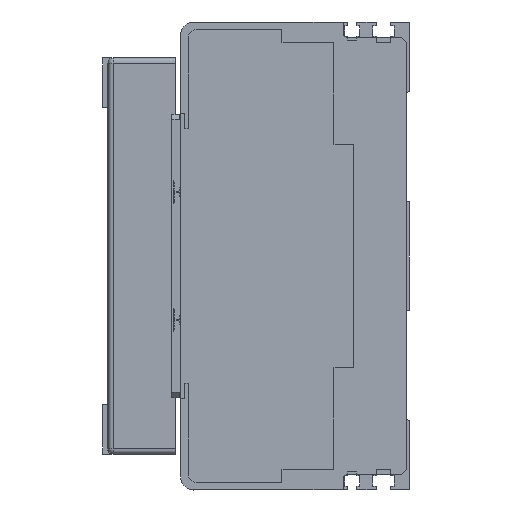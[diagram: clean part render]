
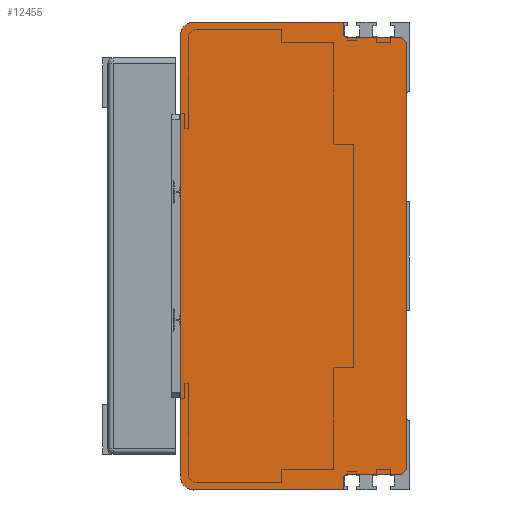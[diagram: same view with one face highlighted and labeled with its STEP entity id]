
A CAD part, left-side view. The second image highlights one B-rep face of the part: STEP entity #12455.
In plain terms, the highlighted planar face has unit normal (-1, 0, 0) as drawn and (0, 0, -1) by its records, which use the part's own axes.
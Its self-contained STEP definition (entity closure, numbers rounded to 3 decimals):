
#945=CIRCLE('',#13306,2.);
#946=CIRCLE('',#13307,5.);
#947=CIRCLE('',#13308,5.);
#948=CIRCLE('',#13309,2.);
#1252=FACE_OUTER_BOUND('',#2014,.T.);
#2014=EDGE_LOOP('',(#8458,#8459,#8460,#8461,#8462,#8463,#8464,#8465,#8466,
#8467,#8468,#8469,#8470,#8471));
#2901=LINE('',#17509,#4077);
#2902=LINE('',#17511,#4078);
#2903=LINE('',#17515,#4079);
#2904=LINE('',#17517,#4080);
#2905=LINE('',#17521,#4081);
#2906=LINE('',#17525,#4082);
#2907=LINE('',#17527,#4083);
#2908=LINE('',#17531,#4084);
#2909=LINE('',#17533,#4085);
#2910=LINE('',#17534,#4086);
#4077=VECTOR('',#14419,2.828);
#4078=VECTOR('',#14420,20.5);
#4079=VECTOR('',#14423,4.);
#4080=VECTOR('',#14424,57.5);
#4081=VECTOR('',#14427,170.);
#4082=VECTOR('',#14430,57.5);
#4083=VECTOR('',#14431,4.);
#4084=VECTOR('',#14434,20.5);
#4085=VECTOR('',#14435,2.828);
#4086=VECTOR('',#14436,164.);
#5285=VERTEX_POINT('',#17507);
#5286=VERTEX_POINT('',#17508);
#5287=VERTEX_POINT('',#17510);
#5288=VERTEX_POINT('',#17512);
#5289=VERTEX_POINT('',#17514);
#5290=VERTEX_POINT('',#17516);
#5291=VERTEX_POINT('',#17518);
#5292=VERTEX_POINT('',#17520);
#5293=VERTEX_POINT('',#17522);
#5294=VERTEX_POINT('',#17524);
#5295=VERTEX_POINT('',#17526);
#5296=VERTEX_POINT('',#17528);
#5297=VERTEX_POINT('',#17530);
#5298=VERTEX_POINT('',#17532);
#6558=EDGE_CURVE('',#5285,#5286,#2901,.T.);
#6559=EDGE_CURVE('',#5285,#5287,#2902,.T.);
#6560=EDGE_CURVE('',#5288,#5287,#945,.T.);
#6561=EDGE_CURVE('',#5288,#5289,#2903,.T.);
#6562=EDGE_CURVE('',#5289,#5290,#2904,.T.);
#6563=EDGE_CURVE('',#5290,#5291,#946,.T.);
#6564=EDGE_CURVE('',#5291,#5292,#2905,.T.);
#6565=EDGE_CURVE('',#5292,#5293,#947,.T.);
#6566=EDGE_CURVE('',#5293,#5294,#2906,.T.);
#6567=EDGE_CURVE('',#5294,#5295,#2907,.T.);
#6568=EDGE_CURVE('',#5296,#5295,#948,.T.);
#6569=EDGE_CURVE('',#5296,#5297,#2908,.T.);
#6570=EDGE_CURVE('',#5298,#5297,#2909,.T.);
#6571=EDGE_CURVE('',#5298,#5286,#2910,.T.);
#8458=ORIENTED_EDGE('',*,*,#6558,.F.);
#8459=ORIENTED_EDGE('',*,*,#6559,.T.);
#8460=ORIENTED_EDGE('',*,*,#6560,.F.);
#8461=ORIENTED_EDGE('',*,*,#6561,.T.);
#8462=ORIENTED_EDGE('',*,*,#6562,.T.);
#8463=ORIENTED_EDGE('',*,*,#6563,.T.);
#8464=ORIENTED_EDGE('',*,*,#6564,.T.);
#8465=ORIENTED_EDGE('',*,*,#6565,.T.);
#8466=ORIENTED_EDGE('',*,*,#6566,.T.);
#8467=ORIENTED_EDGE('',*,*,#6567,.T.);
#8468=ORIENTED_EDGE('',*,*,#6568,.F.);
#8469=ORIENTED_EDGE('',*,*,#6569,.T.);
#8470=ORIENTED_EDGE('',*,*,#6570,.F.);
#8471=ORIENTED_EDGE('',*,*,#6571,.T.);
#12010=PLANE('',#13305);
#12455=ADVANCED_FACE('',(#1252),#12010,.T.);
#13305=AXIS2_PLACEMENT_3D('',#17506,#14417,#14418);
#13306=AXIS2_PLACEMENT_3D('',#17513,#14421,#14422);
#13307=AXIS2_PLACEMENT_3D('',#17519,#14425,#14426);
#13308=AXIS2_PLACEMENT_3D('',#17523,#14428,#14429);
#13309=AXIS2_PLACEMENT_3D('',#17529,#14432,#14433);
#14417=DIRECTION('center_axis',(0.,0.,
-1.));
#14418=DIRECTION('ref_axis',(0.,-1.,0.));
#14419=DIRECTION('',(0.707,-0.707,0.));
#14420=DIRECTION('',(0.,1.,0.));
#14421=DIRECTION('center_axis',(0.,0.,
-1.));
#14422=DIRECTION('ref_axis',(0.707,0.707,0.));
#14423=DIRECTION('',(-1.,0.,0.));
#14424=DIRECTION('',(0.,1.,0.));
#14425=DIRECTION('center_axis',(0.,0.,
-1.));
#14426=DIRECTION('ref_axis',(-1.,0.,0.));
#14427=DIRECTION('',(1.,0.,0.));
#14428=DIRECTION('center_axis',(0.,0.,
-1.));
#14429=DIRECTION('ref_axis',(0.,1.,0.));
#14430=DIRECTION('',(0.,-1.,0.));
#14431=DIRECTION('',(-1.,0.,0.));
#14432=DIRECTION('center_axis',(0.,0.,
-1.));
#14433=DIRECTION('ref_axis',(-0.707,0.707,0.));
#14434=DIRECTION('',(0.,-1.,0.));
#14435=DIRECTION('',(0.707,0.707,0.));
#14436=DIRECTION('',(-1.,0.,0.));
#17506=CARTESIAN_POINT('Origin',(317.669,46.746,-1106.483));
#17507=CARTESIAN_POINT('',(-91.,-80.,-1106.483));
#17508=CARTESIAN_POINT('',(-89.,-82.,-1106.483));
#17509=CARTESIAN_POINT('',(-20.019,-150.981,-1106.483));
#17510=CARTESIAN_POINT('',(-91.,-59.5,-1106.483));
#17511=CARTESIAN_POINT('',(-91.,-17.627,-1106.483));
#17512=CARTESIAN_POINT('',(-93.,-57.5,-1106.483));
#17513=CARTESIAN_POINT('Origin',(-93.,-59.5,-1106.483));
#17514=CARTESIAN_POINT('',(-97.,-57.5,-1106.483));
#17515=CARTESIAN_POINT('',(-91.,-57.5,-1106.483));
#17516=CARTESIAN_POINT('',(-97.,0.,-1106.483));
#17517=CARTESIAN_POINT('',(-97.,-57.5,-1106.483));
#17518=CARTESIAN_POINT('',(-92.,5.,-1106.483));
#17519=CARTESIAN_POINT('Origin',(-92.,0.,
-1106.483));
#17520=CARTESIAN_POINT('',(78.,5.,-1106.483));
#17521=CARTESIAN_POINT('',(-92.,5.,-1106.483));
#17522=CARTESIAN_POINT('',(83.,0.,-1106.483));
#17523=CARTESIAN_POINT('Origin',(78.,0.,
-1106.483));
#17524=CARTESIAN_POINT('',(83.,-57.5,-1106.483));
#17525=CARTESIAN_POINT('',(83.,0.,-1106.483));
#17526=CARTESIAN_POINT('',(79.,-57.5,-1106.483));
#17527=CARTESIAN_POINT('',(83.,-57.5,-1106.483));
#17528=CARTESIAN_POINT('',(77.,-59.5,-1106.483));
#17529=CARTESIAN_POINT('Origin',(79.,-59.5,-1106.483));
#17530=CARTESIAN_POINT('',(77.,-80.,-1106.483));
#17531=CARTESIAN_POINT('',(77.,-57.5,-1106.483));
#17532=CARTESIAN_POINT('',(75.,-82.,-1106.483));
#17533=CARTESIAN_POINT('',(168.354,11.354,-1106.483));
#17534=CARTESIAN_POINT('',(81.,-82.,-1106.483));
